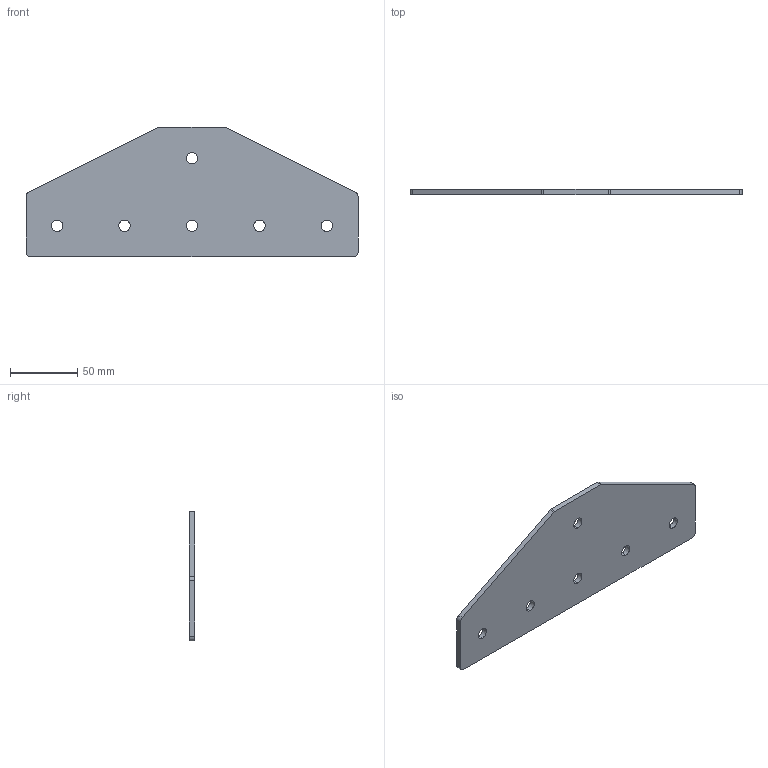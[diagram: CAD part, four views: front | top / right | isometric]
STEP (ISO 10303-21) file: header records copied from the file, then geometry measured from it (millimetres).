
FILE_DESCRIPTION (( 'STEP AP203' ), '1' );
FILE_NAME ('ﾒ-6-ﾓ-50.STEP', '2017-03-22T11:02:47', ( 'RosInstal-MKM' ), ( '' ), 'SwSTEP 2.0', 'SolidWorks 2014', '' );
FILE_SCHEMA (( 'CONFIG_CONTROL_DESIGN' ));
Length unit declared in the file: millimetre
Products named in the file (1): ﾒ-6-ﾓ-50
Bounding box: 246 x 4 x 96 mm (x, y, z)
Volume: 73756.2 mm3; surface area: 39939.4 mm2
Topology: 1 solids, 1 shells, 26 faces, 72 edges, 48 vertices
Faces by surface type: cylinder 18, plane 8
Entity records: 953 total; most frequent: DIRECTION 162, CARTESIAN_POINT 147, ORIENTED_EDGE 144, EDGE_CURVE 72, AXIS2_PLACEMENT_3D 63, VERTEX_POINT 48, EDGE_LOOP 38, VECTOR 36
